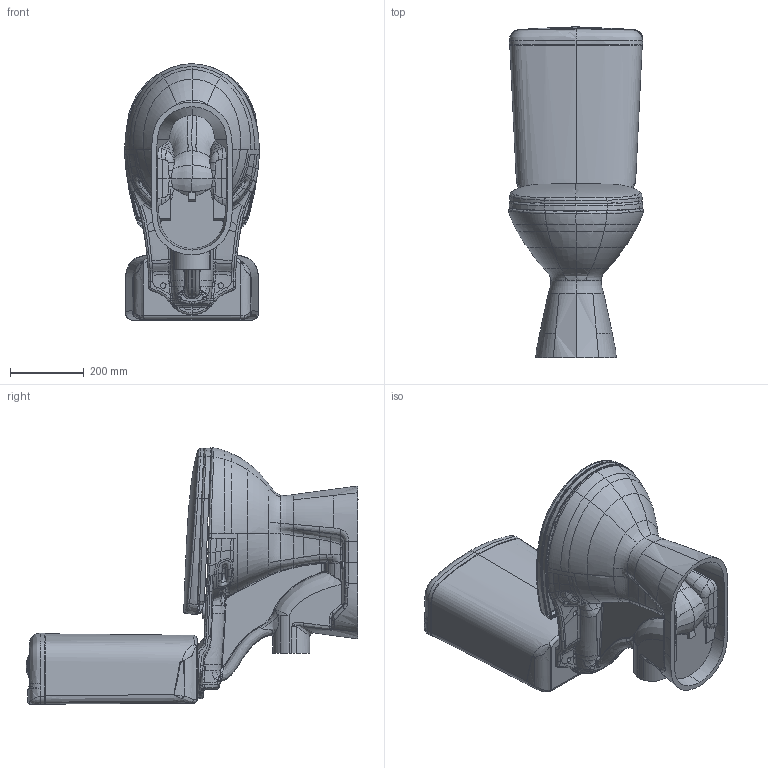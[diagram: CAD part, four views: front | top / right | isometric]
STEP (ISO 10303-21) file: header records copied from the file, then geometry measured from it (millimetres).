
FILE_DESCRIPTION (( 'STEP AP203' ), '1' );
FILE_NAME ('PA310.STEP', '2022-04-21T11:31:33', ( '' ), ( '' ), 'SwSTEP 2.0', 'SolidWorks 2021', '' );
FILE_SCHEMA (( 'CONFIG_CONTROL_DESIGN' ));
Products named in the file (1): PA310
Bounding box: 363.98 x 897.61 x 692.93 mm (x, y, z)
Volume: 27485836.3 mm3; surface area: 2715063.3 mm2
Topology: 17 solids, 19 shells, 2578 faces, 6936 edges, 4402 vertices
Faces by surface type: bspline 1623, plane 484, cylinder 254, torus 106, cone 97, sphere 14
Entity records: 617033 total; most frequent: CARTESIAN_POINT 568044, ORIENTED_EDGE 13768, EDGE_CURVE 6884, DIRECTION 4960, VERTEX_POINT 4402, B_SPLINE_CURVE_WITH_KNOTS 4385, EDGE_LOOP 2658, FACE_OUTER_BOUND 2578
